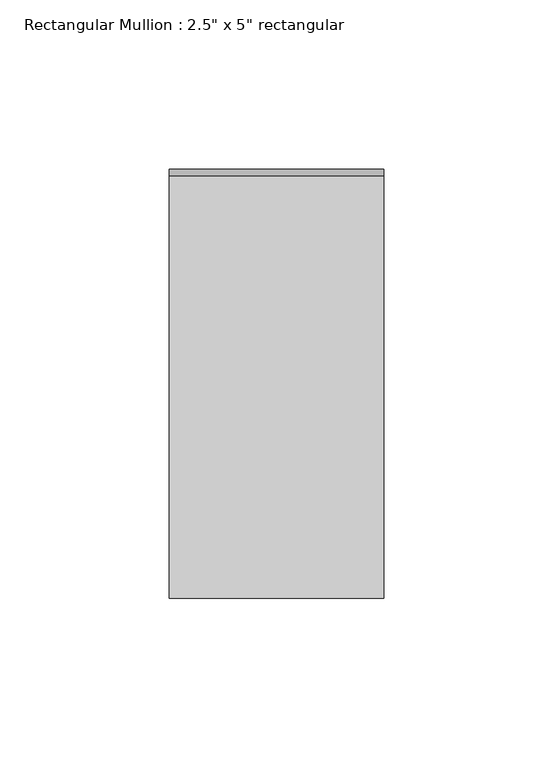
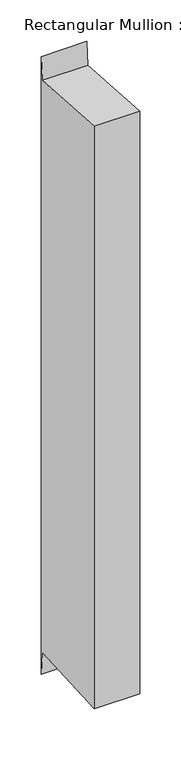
"""IFC4 building model written with IfcOpenShell, lengths in millimetres: member geometry."""

from ifc_helpers import new_model, si_unit, frame, origin, place, context, project, spatial, polyline, outline, extrude, source, transform, mapped, element, save


def member_a397ac22(model_context):
    return source(origin(), model_context, "Body", "SweptSolid", [
        extrude(outline(polyline([(-63.5, 3.8736342), (61.4149606, -3.8662198), (63.5, 29.7846233), (63.5, -880.6846233), (61.4149606, -847.0337802), (-63.5, -854.7736342), (-63.5, 3.8736342)])), frame((-63.5, 0.0, 0.0), z_axis=(1.0, 0.0, 0.0), x_axis=(0.0, 1.0, 0.0)), (0.0, 0.0, 1.0), 63.5),
    ])


if __name__ == "__main__":
    model = new_model("IFC4")
    model_context = context("Model", 3, world=origin())
    ifc_project = project(units=[si_unit("LENGTHUNIT", "METRE", prefix="MILLI")], contexts=[model_context])
    site = spatial("IfcSite", under=ifc_project)
    building = spatial("IfcBuilding", under=site)
    placement = place(None, origin())
    member_shape = member_a397ac22(model_context)
    element("IfcMember", 1, ObjectType="Rectangular Mullion : 2.5\" x 5\" rectangular", at=placement, inside=building, context=model_context, shape_type="MappedRepresentation", body=[
        mapped(member_shape, transform((0.0, 0.0, 0.0), x_axis=(1.0, 0.0, 0.0), y_axis=(0.0, 1.0, 0.0), z_axis=(0.0, 0.0, 1.0))),
    ])
    save(model, "model.ifc")
